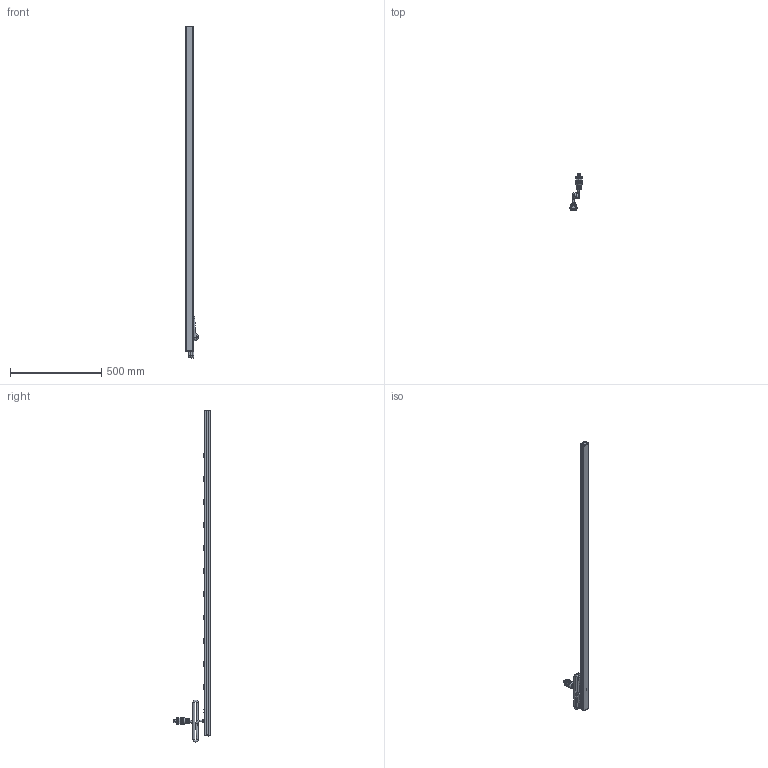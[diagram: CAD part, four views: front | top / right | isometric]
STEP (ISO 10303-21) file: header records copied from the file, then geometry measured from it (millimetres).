
FILE_DESCRIPTION((''),'2;1');
FILE_NAME('E:\Dutton\Manufacturing\drawings\Updated 2009\Vertical Rack Mount Strips\1587 Series\STEP''s\1587H11C1.stp','2010-01-19T14:22:04',('tfoster'),(''),'Autodesk Inventor 2010','Autodesk Inventor 2010','');
FILE_SCHEMA(('AUTOMOTIVE_DESIGN { 1 0 10303 214 1 1 1 1 }'));
Products named in the file (14): 1587H11C1; 1587H11 top; 1587 bottom; End Cap; End Cap w breaker; Reset Switch; #6 - 0.375 Type A screw; Twist Cored 2; toothwasher; round head 1-way 8-32 x 0.5 screw; Receptacle; Power Switch Assembly; Power Switch; Power Switch pt
Assembly tree (26 placements, depth 3):
  1587H11C1
    1587H11 top
    1587 bottom
    End Cap
    End Cap w breaker
    Reset Switch
    #6 - 0.375 Type A screw  x4
    Twist Cored 2
    toothwasher
    round head 1-way 8-32 x 0.5 screw
    Receptacle  x11
    Power Switch Assembly
      Power Switch
      Power Switch pt
Bounding box: 68.19 x 199.14 x 1821.58 mm (x, y, z)
Volume: 700433.3 mm3; surface area: 672884.4 mm2
Topology: 25 solids, 25 shells, 1466 faces, 4073 edges, 2649 vertices
Faces by surface type: plane 927, cylinder 317, bspline 130, sphere 49, cone 28, torus 15
Full cylindrical faces by diameter (mm): 1 x2, 1.803 x3, 1.905 x2, 3.175 x15, 4.3 x1, 4.826 x1, 7.849 x1, 9.5 x5, 11 x1, 19.05 x2, 21.59 x2, 22.86 x1, 24.765 x3
Entity records: 32696 total; most frequent: CARTESIAN_POINT 10242, ORIENTED_EDGE 4768, DIRECTION 4230, EDGE_CURVE 2384, VERTEX_POINT 1635, VECTOR 1446, LINE 1446, AXIS2_PLACEMENT_3D 1392
